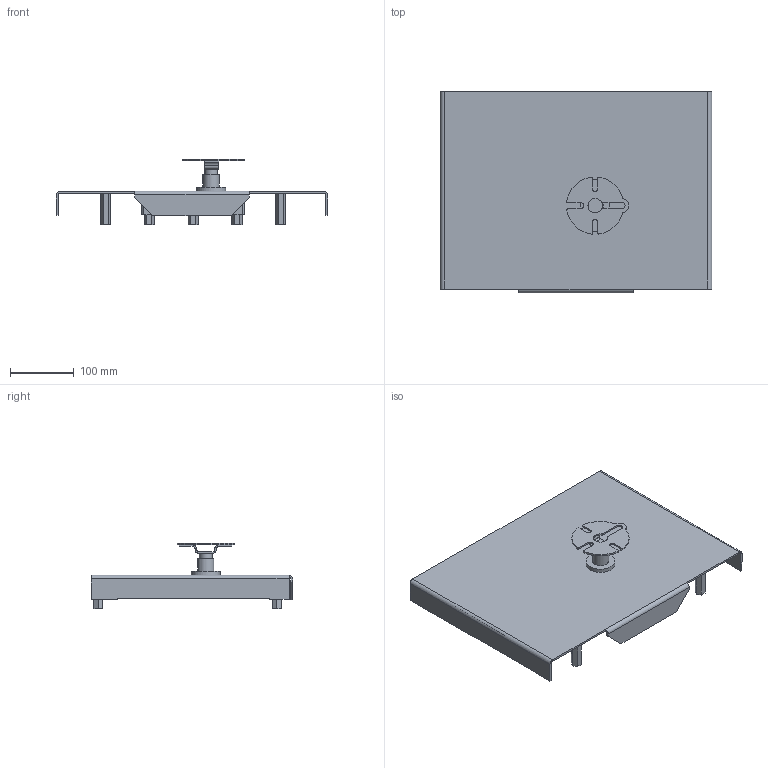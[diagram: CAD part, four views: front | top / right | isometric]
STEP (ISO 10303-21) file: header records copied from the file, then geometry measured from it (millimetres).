
FILE_DESCRIPTION (( 'STEP AP214' ), '1' );
FILE_NAME ('Ìåõ. ïðèâîä ÂÀ50-43.STEP', '2023-01-31T04:49:37', ( '' ), ( '' ), 'SwSTEP 2.0', 'SolidWorks 2018', '' );
FILE_SCHEMA (( 'AUTOMOTIVE_DESIGN' ));
Length unit declared in the file: millimetre
Products named in the file (1): Ìåõ. ïðèâîä ÂÀ50-43
Bounding box: 426.7 x 317 x 103.2 mm (x, y, z)
Volume: 1142783 mm3; surface area: 379376.2 mm2
Topology: 2 solids, 2 shells, 171 faces, 467 edges, 310 vertices
Faces by surface type: plane 128, cylinder 43
Full cylindrical faces by diameter (mm): 20 x1, 25.7 x1, 45.6 x1
Entity records: 5407 total; most frequent: CARTESIAN_POINT 946, ORIENTED_EDGE 928, DIRECTION 894, EDGE_CURVE 464, VECTOR 378, LINE 378, VERTEX_POINT 310, AXIS2_PLACEMENT_3D 258
